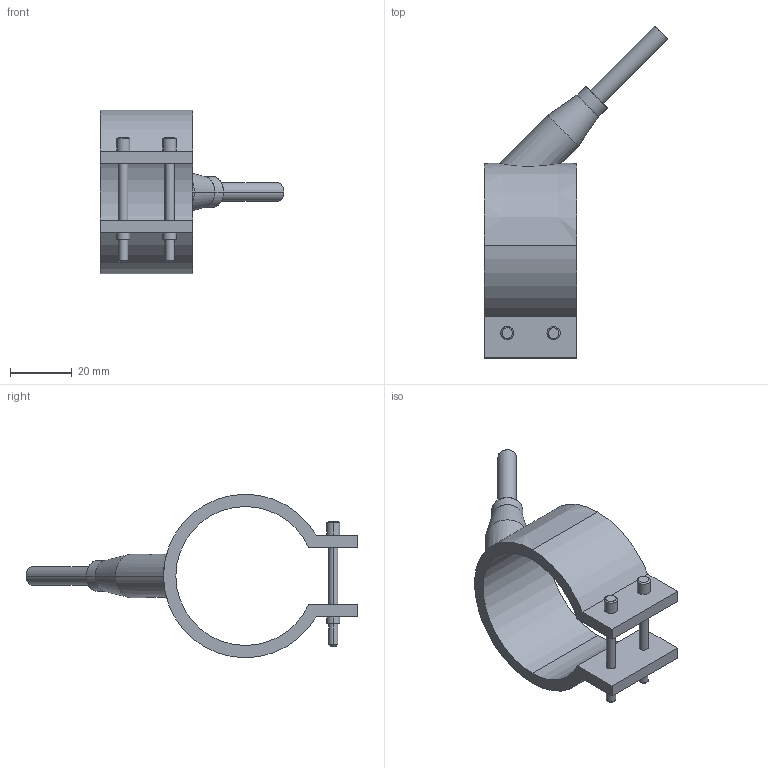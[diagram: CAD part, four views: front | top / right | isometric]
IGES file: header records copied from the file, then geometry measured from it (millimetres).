
Start section: START RECORD GO HERE.
Global section: file name: 29045030.igs; native system: DASSAULT SYSTEMES CATIA V5 R20 - www.3ds.com; preprocessor: CATIA Version 5 Release 20 ; author: Utente; organization: NB04-ASUS; date: 20210327.103616; units: millimetre
Bounding box: 59.55 x 107.55 x 53 mm (x, y, z)
Surface area: 13417.1 mm2 (no closed solid volume)
Topology: 0 solids, 0 shells, 54 faces, 244 edges, 244 vertices
Faces by surface type: revolution 38, plane 16
